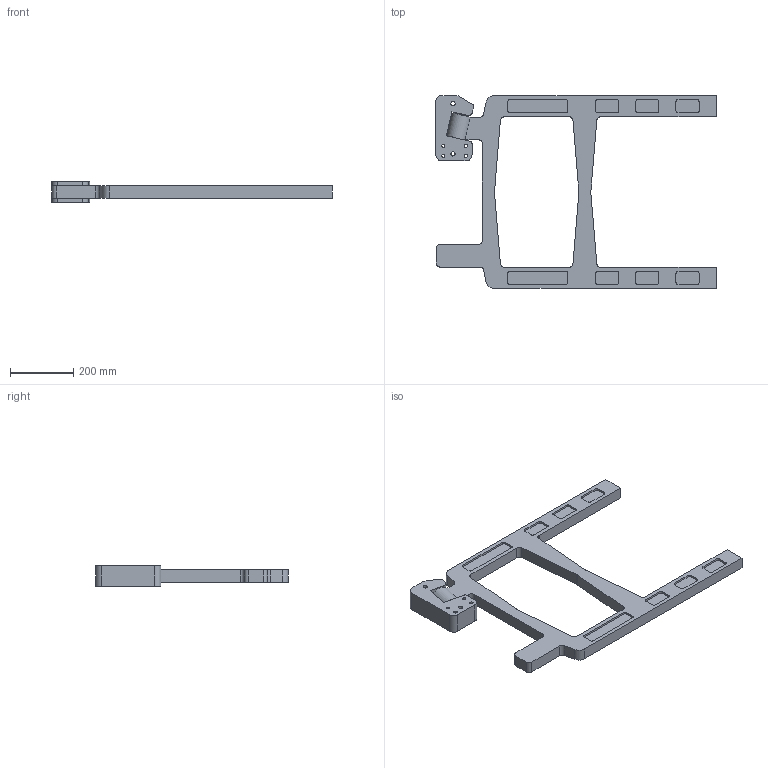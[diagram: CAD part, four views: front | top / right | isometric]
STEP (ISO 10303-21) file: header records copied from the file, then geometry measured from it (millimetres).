
FILE_DESCRIPTION(/* description */ (''),/* implementation_level */ '2;1');
FILE_NAME(/* name */ 'D:\VDV Techniek\Documents\Inventor\_ISP_Products\Safety Gate nagetekend model\UDG-27_Safety_Gate.stp',/* time_stamp */ '2017-06-06T22:17:08+02:00',/* author */ ('VDV Techniek'),/* organization */ (''),/* preprocessor_version */ 'ST-DEVELOPER v15.2',/* originating_system */ 'Autodesk Inventor 2014',/* authorisation */ '');
FILE_SCHEMA (('AUTOMOTIVE_DESIGN { 1 0 10303 214 3 1 1 }'));
Length unit declared in the file: millimetre
Products named in the file (3): Hinge; Blade UDG-27; UDG-27_Safety_Gate
Bounding box: 886.33 x 610.03 x 64 mm (x, y, z)
Volume: 6958182.2 mm3; surface area: 661833.3 mm2
Topology: 2 solids, 2 shells, 218 faces, 584 edges, 388 vertices
Faces by surface type: plane 120, cylinder 98
Full cylindrical faces by diameter (mm): 10 x4, 13.21 x2, 25.65 x3
Entity records: 6904 total; most frequent: DIRECTION 1217, CARTESIAN_POINT 1186, ORIENTED_EDGE 1150, EDGE_CURVE 575, AXIS2_PLACEMENT_3D 419, VERTEX_POINT 388, LINE 379, VECTOR 379
